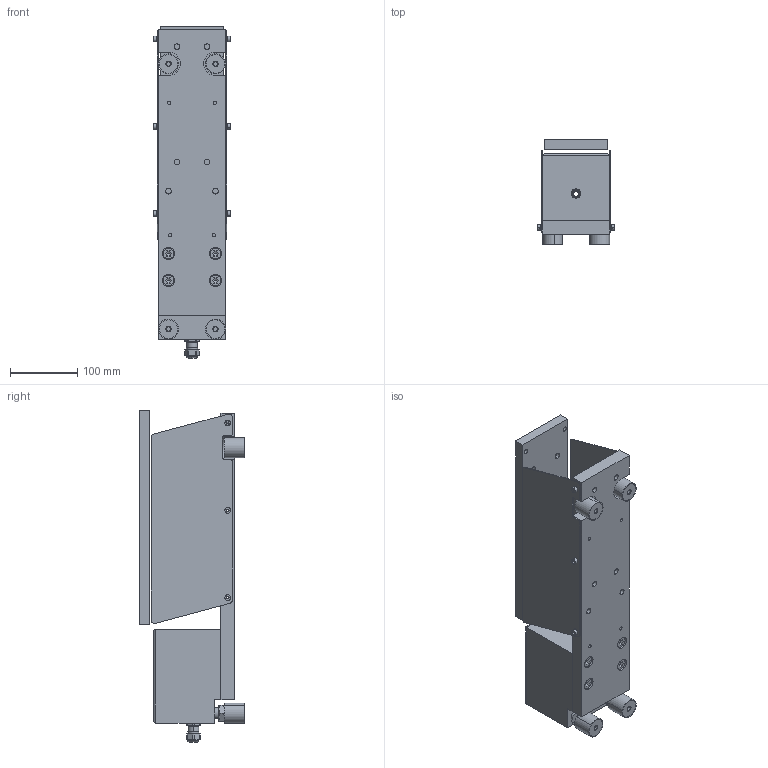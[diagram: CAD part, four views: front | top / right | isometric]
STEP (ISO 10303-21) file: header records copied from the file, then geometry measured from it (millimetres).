
FILE_DESCRIPTION (( 'STEP AP203' ), '1' );
FILE_NAME ('SAL 850.STEP', '2015-10-12T09:24:48', ( '' ), ( '' ), 'SwSTEP 2.0', 'SolidWorks 2014', '' );
FILE_SCHEMA (( 'CONFIG_CONTROL_DESIGN' ));
Length unit declared in the file: millimetre
Products named in the file (1): SAL 850
Bounding box: 115 x 156.31 x 494.47 mm (x, y, z)
Surface area: 428972.3 mm2 (no closed solid volume)
Topology: 0 solids, 82 shells, 398 faces, 1211 edges, 902 vertices
Faces by surface type: plane 183, cylinder 175, cone 38, bspline 2
Entity records: 15049 total; most frequent: CARTESIAN_POINT 3888, DIRECTION 2407, ORIENTED_EDGE 1950, EDGE_CURVE 1199, VERTEX_POINT 902, AXIS2_PLACEMENT_3D 895, VECTOR 617, LINE 617
